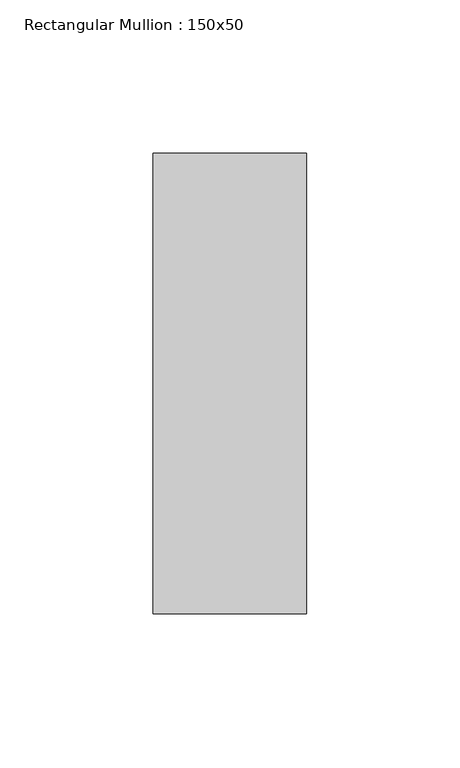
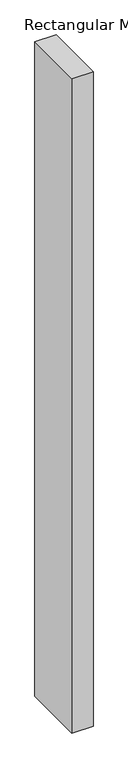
"""IFC4 building model written with IfcOpenShell, lengths in millimetres: member geometry, Rectangular Mullion : 150x50."""

from ifc_helpers import new_model, si_unit, frame, origin, place, context, project, spatial, polyline, outline, extrude, source, transform, mapped, element, save


def rectangular_mullion_150x50_5c2d0f14(model_context):
    return source(origin(), model_context, "Body", "SweptSolid", [
        extrude(outline(polyline([(25.0, 75.0), (25.0, -75.0), (-25.0, -75.0), (-25.0, 75.0), (25.0, 75.0)])), frame((0.0, 0.0, -1625.0), z_axis=(0.0, 0.0, 1.0), x_axis=(1.0, 0.0, 0.0)), (0.0, 0.0, 1.0), 1625.0),
    ])


if __name__ == "__main__":
    model = new_model("IFC4")
    model_context = context("Model", 3, world=origin())
    ifc_project = project(units=[si_unit("LENGTHUNIT", "METRE", prefix="MILLI")], contexts=[model_context])
    site = spatial("IfcSite", under=ifc_project)
    building = spatial("IfcBuilding", under=site)
    placement = place(None, origin())
    rectangular_mullion_150x50_shape = rectangular_mullion_150x50_5c2d0f14(model_context)
    element("IfcMember", 1, ObjectType="Rectangular Mullion : 150x50", at=placement, inside=building, context=model_context, shape_type="MappedRepresentation", body=[
        mapped(rectangular_mullion_150x50_shape, transform((0.0, 0.0, 0.0), x_axis=(1.0, 0.0, 0.0), y_axis=(0.0, 1.0, 0.0), z_axis=(0.0, 0.0, 1.0))),
    ])
    save(model, "model.ifc")
